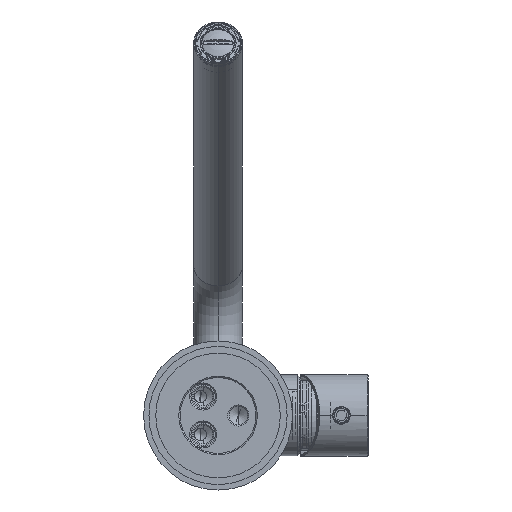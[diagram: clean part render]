
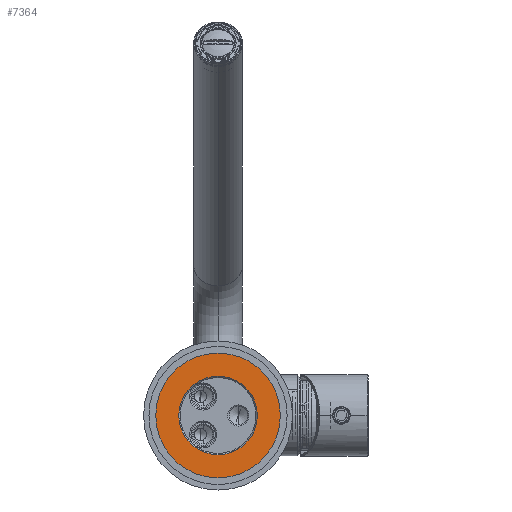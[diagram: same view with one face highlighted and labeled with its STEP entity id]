
A CAD part, front view. The second image highlights one B-rep face of the part: STEP entity #7364.
In plain terms, the highlighted planar face has unit normal (0, -1, 0).
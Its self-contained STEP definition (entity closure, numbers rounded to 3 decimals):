
#2301 = EDGE_CURVE ( 'NONE', #37136, #23776, #33725, .T. ) ;
#2643 = CARTESIAN_POINT ( 'NONE',  ( 0., 0., -23. ) ) ;
#3205 = CARTESIAN_POINT ( 'NONE',  ( 0., 0., 0. ) ) ;
#4150 = ORIENTED_EDGE ( 'NONE', *, *, #12811, .T. ) ;
#7181 = DIRECTION ( 'NONE',  ( 0., 1., 0. ) ) ;
#7336 = VERTEX_POINT ( 'NONE', #39271 ) ;
#7364 = ADVANCED_FACE ( 'NONE', ( #7635, #16856 ), #36658, .F. ) ;
#7635 = FACE_BOUND ( 'NONE', #19774, .T. ) ;
#10845 = CARTESIAN_POINT ( 'NONE',  ( -14., 0., 0. ) ) ;
#12811 = EDGE_CURVE ( 'NONE', #23776, #37136, #13473, .T. ) ;
#13473 = CIRCLE ( 'NONE', #37542, 23. ) ;
#15987 = DIRECTION ( 'NONE',  ( 0., -1., 0. ) ) ;
#16295 = DIRECTION ( 'NONE',  ( 0., -1., 0. ) ) ;
#16856 = FACE_OUTER_BOUND ( 'NONE', #28538, .T. ) ;
#17286 = DIRECTION ( 'NONE',  ( 0., 0., 1. ) ) ;
#18993 = ORIENTED_EDGE ( 'NONE', *, *, #2301, .T. ) ;
#19684 = VERTEX_POINT ( 'NONE', #37298 ) ;
#19774 = EDGE_LOOP ( 'NONE', ( #24186, #30191 ) ) ;
#20689 = CARTESIAN_POINT ( 'NONE',  ( 0., 0., 0. ) ) ;
#20885 = DIRECTION ( 'NONE',  ( 0., 0., 1. ) ) ;
#20935 = DIRECTION ( 'NONE',  ( 0., 1., 0. ) ) ;
#21102 = DIRECTION ( 'NONE',  ( 0., 1., 0. ) ) ;
#23761 = DIRECTION ( 'NONE',  ( 0., 0., 1. ) ) ;
#23776 = VERTEX_POINT ( 'NONE', #34102 ) ;
#24186 = ORIENTED_EDGE ( 'NONE', *, *, #29312, .T. ) ;
#24946 = AXIS2_PLACEMENT_3D ( 'NONE', #20689, #21102, #20885 ) ;
#27540 = AXIS2_PLACEMENT_3D ( 'NONE', #40113, #20935, #23761 ) ;
#27647 = AXIS2_PLACEMENT_3D ( 'NONE', #10845, #7181, #17286 ) ;
#28538 = EDGE_LOOP ( 'NONE', ( #18993, #4150 ) ) ;
#29312 = EDGE_CURVE ( 'NONE', #19684, #7336, #36454, .T. ) ;
#29429 = DIRECTION ( 'NONE',  ( 0., 0., -1. ) ) ;
#30191 = ORIENTED_EDGE ( 'NONE', *, *, #30848, .T. ) ;
#30848 = EDGE_CURVE ( 'NONE', #7336, #19684, #35955, .T. ) ;
#31497 = DIRECTION ( 'NONE',  ( 0., 0., -1. ) ) ;
#32361 = CARTESIAN_POINT ( 'NONE',  ( 0., 0., 0. ) ) ;
#33725 = CIRCLE ( 'NONE', #37802, 23. ) ;
#34102 = CARTESIAN_POINT ( 'NONE',  ( 0., 0., 23. ) ) ;
#35955 = CIRCLE ( 'NONE', #24946, 14.5 ) ;
#36454 = CIRCLE ( 'NONE', #27540, 14.5 ) ;
#36658 = PLANE ( 'NONE',  #27647 ) ;
#37136 = VERTEX_POINT ( 'NONE', #2643 ) ;
#37298 = CARTESIAN_POINT ( 'NONE',  ( 0., 0., -14.5 ) ) ;
#37542 = AXIS2_PLACEMENT_3D ( 'NONE', #3205, #16295, #29429 ) ;
#37802 = AXIS2_PLACEMENT_3D ( 'NONE', #32361, #15987, #31497 ) ;
#39271 = CARTESIAN_POINT ( 'NONE',  ( 0., 0., 14.5 ) ) ;
#40113 = CARTESIAN_POINT ( 'NONE',  ( 0., 0., 0. ) ) ;
